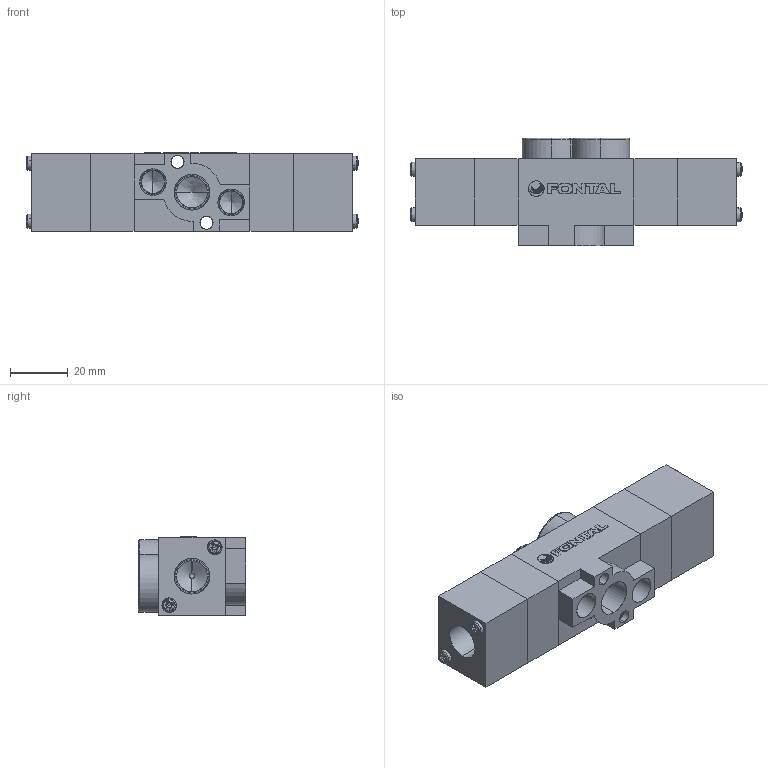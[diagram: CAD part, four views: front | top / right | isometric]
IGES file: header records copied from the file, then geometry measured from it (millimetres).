
Start section: SolidWorks IGES file using analytic representation for surfaces
Global section: file name: C:\Users\Toshiba\Desktop\YCD(E)(O)3406-02.IGS; native system: SolidWorks 2014; preprocessor: SolidWorks 2014; author: Toshiba; date: 160808.093140; units: metre
Bounding box: 114.49 x 37 x 27.15 mm (x, y, z)
Surface area: 24754 mm2 (no closed solid volume)
Topology: 0 solids, 0 shells, 379 faces, 3733 edges, 3711 vertices
Faces by surface type: bspline 248, revolution 131
